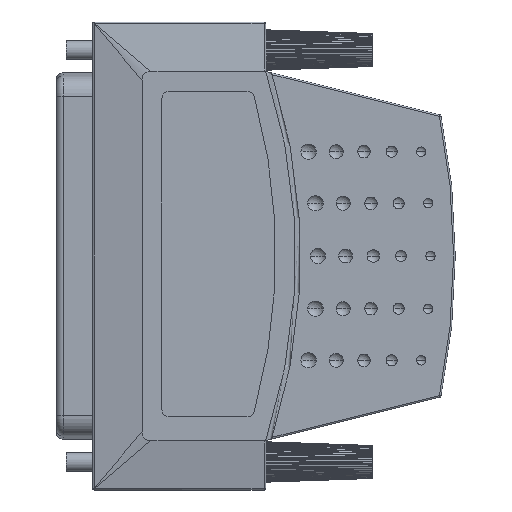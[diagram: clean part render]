
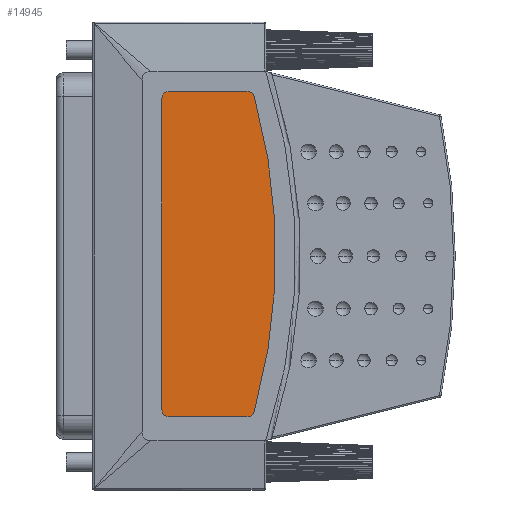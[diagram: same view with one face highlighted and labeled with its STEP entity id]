
A CAD part, front view. The second image highlights one B-rep face of the part: STEP entity #14945.
In plain terms, the highlighted planar face has unit normal (0, -1, 0).
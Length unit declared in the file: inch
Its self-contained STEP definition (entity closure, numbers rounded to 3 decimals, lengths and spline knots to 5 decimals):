
#4221=CARTESIAN_POINT('',(-1.734,-0.31,-0.931));
#4222=DIRECTION('',(0.,1.,0.));
#4223=DIRECTION('',(0.,0.,-1.));
#4224=AXIS2_PLACEMENT_3D('',#4221,#4222,#4223);
#4226=DIRECTION('',(0.,0.,1.));
#4227=VECTOR('',#4226,1.885);
#4228=CARTESIAN_POINT('',(-1.78,-0.31,-0.931));
#4229=LINE('',#4228,#4227);
#4230=CARTESIAN_POINT('',(-1.734,-0.31,0.954));
#4231=DIRECTION('',(0.,1.,0.));
#4232=DIRECTION('',(-1.,0.,0.));
#4233=AXIS2_PLACEMENT_3D('',#4230,#4231,#4232);
#4235=DIRECTION('',(1.,0.,0.));
#4236=VECTOR('',#4235,0.47008);
#4237=CARTESIAN_POINT('',(-1.734,-0.31,1.));
#4238=LINE('',#4237,#4236);
#4239=CARTESIAN_POINT('',(-1.26392,-0.31,0.954));
#4240=DIRECTION('',(0.,1.,0.));
#4241=DIRECTION('',(0.,0.,1.));
#4242=AXIS2_PLACEMENT_3D('',#4239,#4240,#4241);
#4244=CARTESIAN_POINT('',(-4.64469,-0.31,0.0115));
#4245=DIRECTION('',(0.,1.,0.));
#4246=DIRECTION('',(0.963,0.,0.269));
#4247=AXIS2_PLACEMENT_3D('',#4244,#4245,#4246);
#4249=CARTESIAN_POINT('',(-1.26392,-0.31,-0.931));
#4250=DIRECTION('',(0.,1.,0.));
#4251=DIRECTION('',(0.963,0.,-0.269));
#4252=AXIS2_PLACEMENT_3D('',#4249,#4250,#4251);
#4254=DIRECTION('',(-1.,0.,0.));
#4255=VECTOR('',#4254,0.47008);
#4256=CARTESIAN_POINT('',(-1.26392,-0.31,-0.977));
#4257=LINE('',#4256,#4255);
#8677=CARTESIAN_POINT('',(-1.734,-0.31,-0.977));
#8678=CARTESIAN_POINT('',(-1.78,-0.31,-0.931));
#8679=VERTEX_POINT('',#8677);
#8680=VERTEX_POINT('',#8678);
#8681=CARTESIAN_POINT('',(-1.78,-0.31,0.954));
#8682=VERTEX_POINT('',#8681);
#8683=CARTESIAN_POINT('',(-1.734,-0.31,1.));
#8684=VERTEX_POINT('',#8683);
#8685=CARTESIAN_POINT('',(-1.26392,-0.31,1.));
#8686=VERTEX_POINT('',#8685);
#8687=CARTESIAN_POINT('',(-1.21961,-0.31,0.96635));
#8688=VERTEX_POINT('',#8687);
#8689=CARTESIAN_POINT('',(-1.21961,-0.31,-0.94335));
#8690=VERTEX_POINT('',#8689);
#8691=CARTESIAN_POINT('',(-1.26392,-0.31,-0.977));
#8692=VERTEX_POINT('',#8691);
#14930=CARTESIAN_POINT('',(-1.9,-0.31,0.));
#14931=DIRECTION('',(0.,1.,0.));
#14932=DIRECTION('',(1.,0.,0.));
#14933=AXIS2_PLACEMENT_3D('',#14930,#14931,#14932);
#14934=PLANE('',#14933);
#14935=ORIENTED_EDGE('',*,*,#14826,.T.);
#14936=ORIENTED_EDGE('',*,*,#14841,.T.);
#14937=ORIENTED_EDGE('',*,*,#14855,.T.);
#14938=ORIENTED_EDGE('',*,*,#14869,.T.);
#14939=ORIENTED_EDGE('',*,*,#14883,.T.);
#14940=ORIENTED_EDGE('',*,*,#14897,.T.);
#14941=ORIENTED_EDGE('',*,*,#14911,.T.);
#14942=ORIENTED_EDGE('',*,*,#14924,.T.);
#14943=EDGE_LOOP('',(#14935,#14936,#14937,#14938,#14939,#14940,#14941,#14942));
#14944=FACE_OUTER_BOUND('',#14943,.F.);
#14945=ADVANCED_FACE('',(#14944),#14934,.F.);
#4225=CIRCLE('',#4224,0.046);
#4234=CIRCLE('',#4233,0.046);
#4243=CIRCLE('',#4242,0.046);
#4248=CIRCLE('',#4247,3.55569);
#4253=CIRCLE('',#4252,0.046);
#14826=EDGE_CURVE('',#8679,#8680,#4225,.T.);
#14841=EDGE_CURVE('',#8680,#8682,#4229,.T.);
#14855=EDGE_CURVE('',#8682,#8684,#4234,.T.);
#14869=EDGE_CURVE('',#8684,#8686,#4238,.T.);
#14883=EDGE_CURVE('',#8686,#8688,#4243,.T.);
#14897=EDGE_CURVE('',#8688,#8690,#4248,.T.);
#14911=EDGE_CURVE('',#8690,#8692,#4253,.T.);
#14924=EDGE_CURVE('',#8692,#8679,#4257,.T.);
